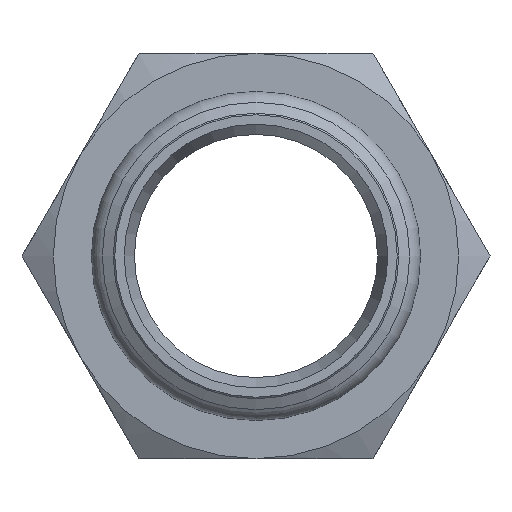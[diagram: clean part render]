
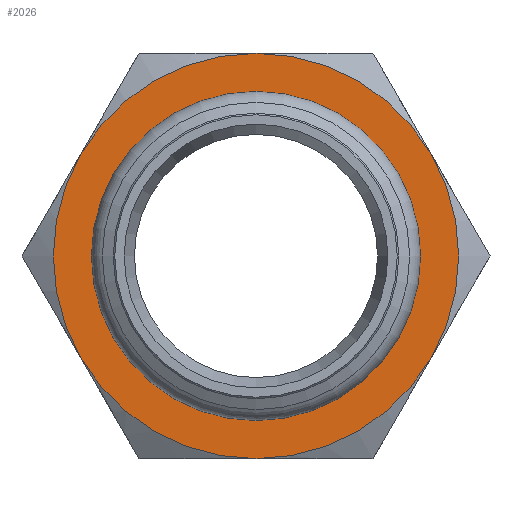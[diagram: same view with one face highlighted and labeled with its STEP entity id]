
A CAD part, left-side view. The second image highlights one B-rep face of the part: STEP entity #2026.
In plain terms, the highlighted planar face has unit normal (-1, 0, 0) as drawn and (0, 0, 1) by its records, which use the part's own axes.
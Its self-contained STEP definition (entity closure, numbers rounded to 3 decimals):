
#1369=CARTESIAN_POINT('',(24.25,0.,0.0));
#1370=VERTEX_POINT('',#1369);
#1371=CARTESIAN_POINT('',(0.0,0.0,0.0));
#1372=DIRECTION('',(0.0,0.0,-1.0));
#1373=DIRECTION('',(-1.0,0.0,0.0));
#1374=AXIS2_PLACEMENT_3D('',#1371,#1372,#1373);
#1375=CIRCLE('',#1374,24.25);
#1376=EDGE_CURVE('',#1370,#1370,#1375,.T.);
#1411=CARTESIAN_POINT('',(0.0,-32.5,0.0));
#1412=VERTEX_POINT('',#1411);
#1426=CARTESIAN_POINT('',(28.146,-16.25,0.0));
#1427=VERTEX_POINT('',#1426);
#1441=CARTESIAN_POINT('',(0.0,0.0,0.0));
#1442=DIRECTION('',(0.0,0.0,1.0));
#1443=DIRECTION('',(1.0,0.0,0.0));
#1444=AXIS2_PLACEMENT_3D('',#1441,#1442,#1443);
#1445=CIRCLE('',#1444,32.5);
#1446=EDGE_CURVE('',#1412,#1427,#1445,.T.);
#1458=CARTESIAN_POINT('',(-28.146,-16.25,0.0));
#1459=VERTEX_POINT('',#1458);
#1486=CARTESIAN_POINT('',(0.0,0.0,0.0));
#1487=DIRECTION('',(0.0,0.0,1.0));
#1488=DIRECTION('',(1.0,0.0,0.0));
#1489=AXIS2_PLACEMENT_3D('',#1486,#1487,#1488);
#1490=CIRCLE('',#1489,32.5);
#1491=EDGE_CURVE('',#1459,#1412,#1490,.T.);
#1503=CARTESIAN_POINT('',(-28.146,16.25,0.0));
#1504=VERTEX_POINT('',#1503);
#1531=CARTESIAN_POINT('',(0.0,0.0,0.0));
#1532=DIRECTION('',(0.0,0.0,1.0));
#1533=DIRECTION('',(1.0,0.0,0.0));
#1534=AXIS2_PLACEMENT_3D('',#1531,#1532,#1533);
#1535=CIRCLE('',#1534,32.5);
#1536=EDGE_CURVE('',#1504,#1459,#1535,.T.);
#1561=CARTESIAN_POINT('',(0.,32.5,0.0));
#1562=VERTEX_POINT('',#1561);
#1563=CARTESIAN_POINT('',(0.0,0.0,0.0));
#1564=DIRECTION('',(0.0,0.0,1.0));
#1565=DIRECTION('',(1.0,0.0,0.0));
#1566=AXIS2_PLACEMENT_3D('',#1563,#1564,#1565);
#1567=CIRCLE('',#1566,32.5);
#1568=EDGE_CURVE('',#1562,#1504,#1567,.T.);
#1606=CARTESIAN_POINT('',(28.146,16.25,0.0));
#1607=VERTEX_POINT('',#1606);
#1608=CARTESIAN_POINT('',(0.0,0.0,0.0));
#1609=DIRECTION('',(0.0,0.0,1.0));
#1610=DIRECTION('',(1.0,0.0,0.0));
#1611=AXIS2_PLACEMENT_3D('',#1608,#1609,#1610);
#1612=CIRCLE('',#1611,32.5);
#1613=EDGE_CURVE('',#1607,#1562,#1612,.T.);
#1651=CARTESIAN_POINT('',(0.0,0.0,0.0));
#1652=DIRECTION('',(0.0,0.0,1.0));
#1653=DIRECTION('',(1.0,0.0,0.0));
#1654=AXIS2_PLACEMENT_3D('',#1651,#1652,#1653);
#1655=CIRCLE('',#1654,32.5);
#1656=EDGE_CURVE('',#1427,#1607,#1655,.T.);
#2010=CARTESIAN_POINT('',(0.,0.,0.0));
#2011=DIRECTION('',(0.0,0.0,1.0));
#2012=DIRECTION('',(1.0,0.0,0.0));
#2013=AXIS2_PLACEMENT_3D('',#2010,#2011,#2012);
#2014=PLANE('',#2013);
#2015=ORIENTED_EDGE('',*,*,#1656,.T.);
#2016=ORIENTED_EDGE('',*,*,#1613,.T.);
#2017=ORIENTED_EDGE('',*,*,#1568,.T.);
#2018=ORIENTED_EDGE('',*,*,#1536,.T.);
#2019=ORIENTED_EDGE('',*,*,#1491,.T.);
#2020=ORIENTED_EDGE('',*,*,#1446,.T.);
#2021=EDGE_LOOP('',(#2015,#2016,#2017,#2018,#2019,#2020));
#2022=FACE_OUTER_BOUND('',#2021,.T.);
#2023=ORIENTED_EDGE('',*,*,#1376,.T.);
#2024=EDGE_LOOP('',(#2023));
#2025=FACE_BOUND('',#2024,.T.);
#2026=ADVANCED_FACE('',(#2022,#2025),#2014,.T.);
